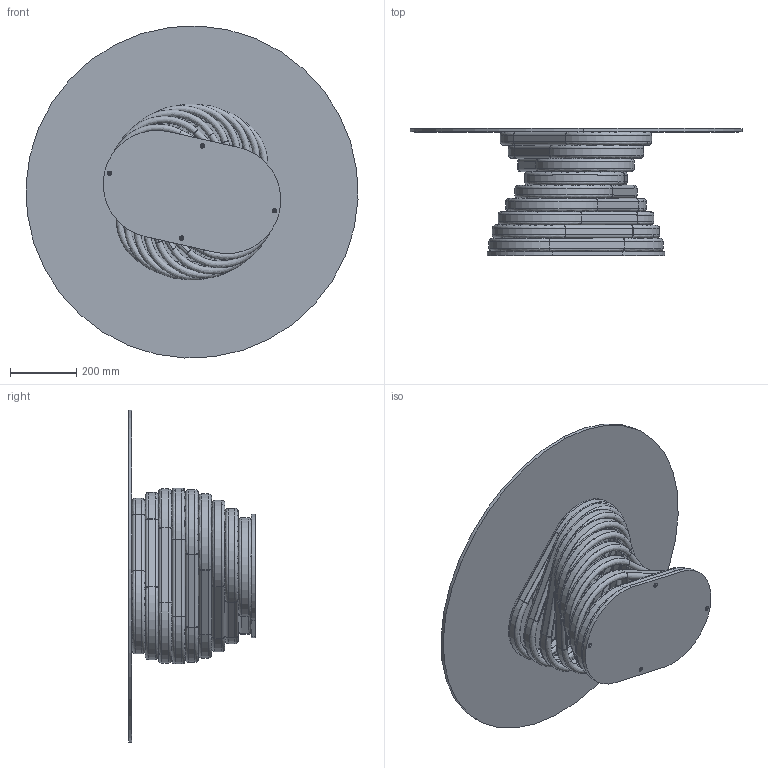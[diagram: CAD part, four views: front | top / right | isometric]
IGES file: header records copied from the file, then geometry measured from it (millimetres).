
Start section: SolidWorks IGES file using analytic representation for surfaces
Global section: file name: Y:\eforma\TECNICO\SOLIDWORKS\E-FORMA\2-TAVOLINI\ROTOLO LOW\02 parts\RL03G.IGS; native system: SolidWorks 2022; preprocessor: SolidWorks 2022; author: eforma.tech; date: 240806.143623; units: millimetre
Bounding box: 999.07 x 382 x 999.07 mm (x, y, z)
Volume: 12385177.5 mm3; surface area: 4412604.1 mm2
Topology: 41 solids, 41 shells, 454 faces, 1108 edges, 734 vertices
Faces by surface type: revolution 280, plane 172, bspline 2
